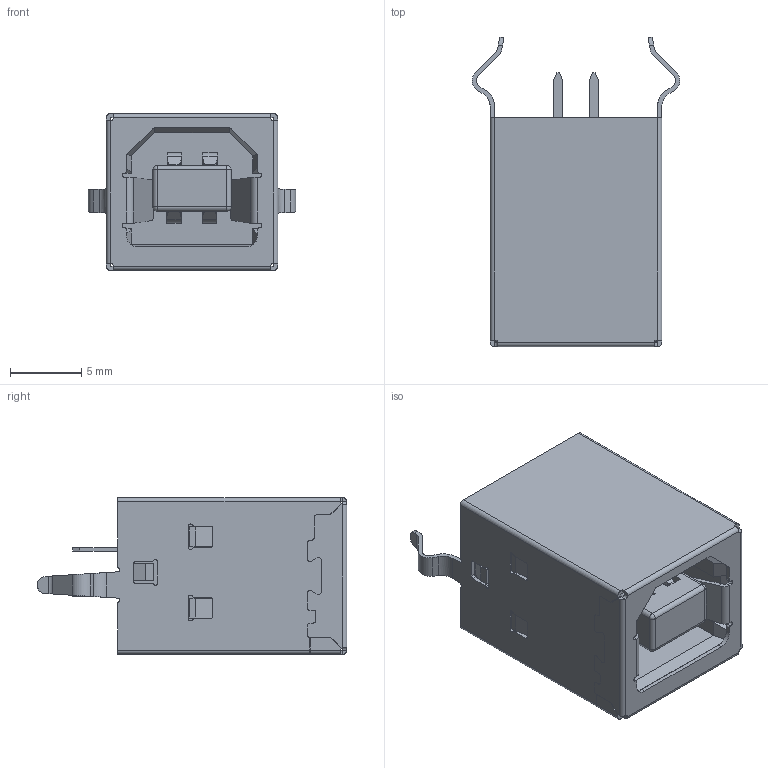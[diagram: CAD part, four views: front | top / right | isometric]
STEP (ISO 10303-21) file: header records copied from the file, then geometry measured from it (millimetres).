
FILE_DESCRIPTION (( 'STEP AP214' ), '1' );
FILE_NAME ('Same_Sky_UJ2-BV-1-TH.step', '2025-09-14T12:20:50', ( '' ), ( '' ), 'SwSTEP 2.0', 'SolidWorks 2025', '' );
FILE_SCHEMA (( 'AUTOMOTIVE_DESIGN' ));
Length unit declared in the file: millimetre
Products named in the file (1): Same_Sky_UJ2-BV-1-TH
Bounding box: 14.58 x 21.75 x 11 mm (x, y, z)
Volume: 1350.4 mm3; surface area: 3605.4 mm2
Topology: 1 solids, 1 shells, 957 faces, 2813 edges, 1842 vertices
Faces by surface type: plane 632, cylinder 316, torus 5, sphere 4
Entity records: 39315 total; most frequent: CARTESIAN_POINT 5879, ORIENTED_EDGE 5618, DIRECTION 5212, EDGE_CURVE 2809, VECTOR 2142, LINE 2142, VERTEX_POINT 1842, AXIS2_PLACEMENT_3D 1535
